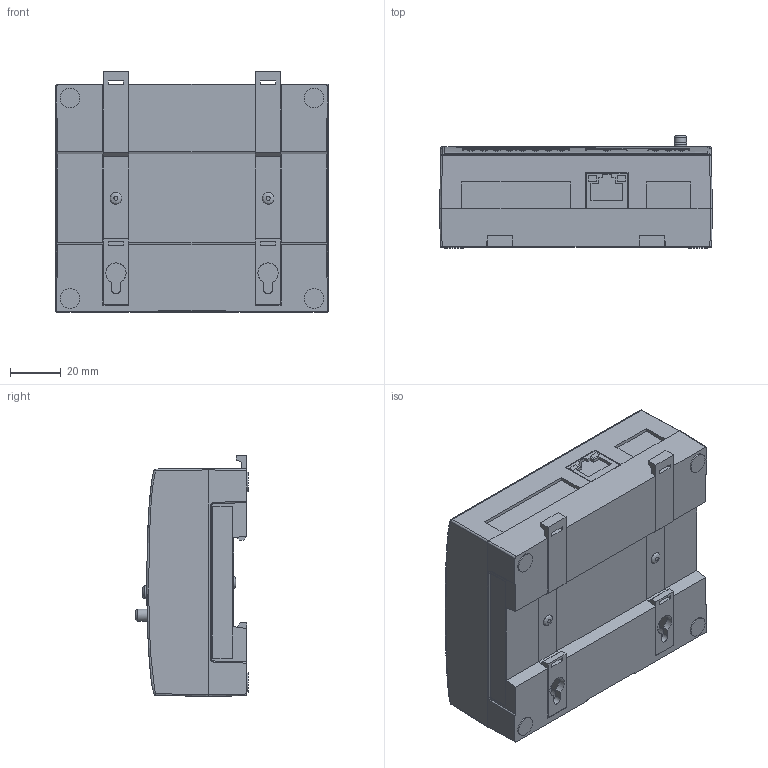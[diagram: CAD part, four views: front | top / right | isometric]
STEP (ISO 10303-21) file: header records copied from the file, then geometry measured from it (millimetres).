
FILE_DESCRIPTION(/* description */ ('STEP AP242','CAx-IF Rec.Pracs.---Representation and Presentation of Product Manufacturing Information (PMI)---4.0---2014-10-13','CAx-IF Rec.Pracs.---3D Tessellated Geometry---0.4---2014-09-14','2;1'),/* implementation_level */ '2;1');
FILE_NAME(/* name */ '6634d2715996e81fac3b13c1',/* time_stamp */ '2024-05-03T12:02:59Z',/* author */ (''),/* organization */ (''),/* preprocessor_version */ 'ST-DEVELOPER v20',/* originating_system */ ' ',/* authorisation */ ' ');
FILE_SCHEMA (('AP242_MANAGED_MODEL_BASED_3D_ENGINEERING_MIM_LF { 1 0 10303 442 1 1 4 }'));
Length unit declared in the file: metre
Products named in the file (1): XPC
Bounding box: 107.5 x 44.34 x 94.94 mm (x, y, z)
Volume: 348656 mm3; surface area: 38427.5 mm2
Topology: 1 solids, 1 shells, 1186 faces, 3098 edges, 2045 vertices
Faces by surface type: plane 953, cylinder 132, bspline 96, sphere 4, torus 1
Full cylindrical faces by diameter (mm): 0.544 x7, 0.705 x7, 0.8 x1, 0.866 x7, 0.99 x7, 1.485 x1, 1.8 x1, 2.3 x8, 3 x1, 4.8 x1, 5.1 x1, 7.418 x1, 7.8 x4, 9.9 x1, 10.782 x1
Entity records: 45630 total; most frequent: CARTESIAN_POINT 16020, ORIENTED_EDGE 6068, DIRECTION 4940, EDGE_CURVE 3034, LINE 2542, VECTOR 2542, VERTEX_POINT 2038, EDGE_LOOP 1378
